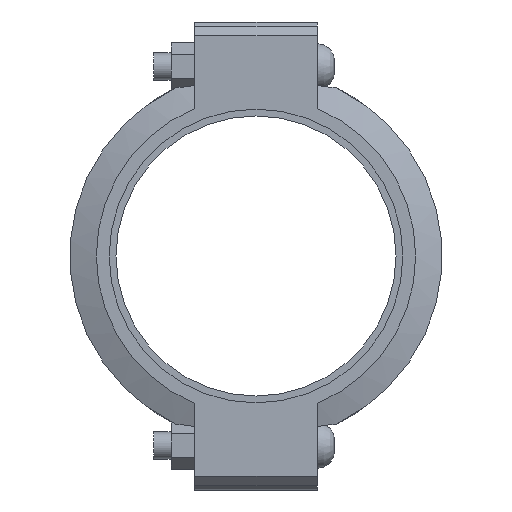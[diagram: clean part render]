
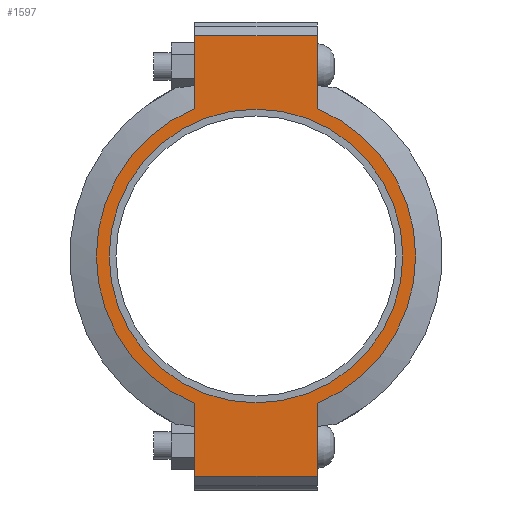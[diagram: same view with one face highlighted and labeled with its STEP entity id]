
A CAD part, left-side view. The second image highlights one B-rep face of the part: STEP entity #1597.
In plain terms, the highlighted planar face has unit normal (-1, 0, 0) as drawn and (0, 0, 1) by its records, which use the part's own axes.
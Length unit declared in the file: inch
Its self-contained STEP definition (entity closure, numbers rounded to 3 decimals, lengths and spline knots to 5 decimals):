
#168=LINE('',#2768,#257);
#179=LINE('',#2819,#268);
#185=LINE('',#2845,#274);
#187=LINE('',#2848,#276);
#188=LINE('',#2853,#277);
#189=LINE('',#2854,#278);
#257=VECTOR('',#2260,0.3937);
#268=VECTOR('',#2291,0.3937);
#274=VECTOR('',#2309,0.3937);
#276=VECTOR('',#2313,0.3937);
#277=VECTOR('',#2318,0.3937);
#278=VECTOR('',#2319,0.3937);
#340=FACE_BOUND('',#517,.T.);
#408=FACE_OUTER_BOUND('',#516,.T.);
#516=EDGE_LOOP('',(#1292,#1293,#1294,#1295,#1296,#1297,#1298,#1299));
#517=EDGE_LOOP('',(#1300));
#599=CIRCLE('',#1834,5.375);
#623=CIRCLE('',#1886,5.845);
#624=CIRCLE('',#1887,5.845);
#695=VERTEX_POINT('',#2594);
#736=VERTEX_POINT('',#2765);
#737=VERTEX_POINT('',#2767);
#754=VERTEX_POINT('',#2814);
#755=VERTEX_POINT('',#2818);
#762=VERTEX_POINT('',#2840);
#763=VERTEX_POINT('',#2844);
#764=VERTEX_POINT('',#2850);
#765=VERTEX_POINT('',#2852);
#859=EDGE_CURVE('',#695,#695,#599,.T.);
#916=EDGE_CURVE('',#737,#736,#168,.T.);
#937=EDGE_CURVE('',#755,#754,#179,.T.);
#948=EDGE_CURVE('',#763,#762,#185,.T.);
#950=EDGE_CURVE('',#763,#736,#187,.T.);
#951=EDGE_CURVE('',#762,#764,#623,.T.);
#952=EDGE_CURVE('',#764,#765,#188,.T.);
#953=EDGE_CURVE('',#755,#765,#189,.T.);
#954=EDGE_CURVE('',#754,#737,#624,.T.);
#1292=ORIENTED_EDGE('',*,*,#950,.F.);
#1293=ORIENTED_EDGE('',*,*,#948,.T.);
#1294=ORIENTED_EDGE('',*,*,#951,.T.);
#1295=ORIENTED_EDGE('',*,*,#952,.T.);
#1296=ORIENTED_EDGE('',*,*,#953,.F.);
#1297=ORIENTED_EDGE('',*,*,#937,.T.);
#1298=ORIENTED_EDGE('',*,*,#954,.T.);
#1299=ORIENTED_EDGE('',*,*,#916,.T.);
#1300=ORIENTED_EDGE('',*,*,#859,.T.);
#1437=PLANE('',#1885);
#1597=ADVANCED_FACE('',(#408,#340),#1437,.T.);
#1834=AXIS2_PLACEMENT_3D('',#2596,#2150,#2151);
#1885=AXIS2_PLACEMENT_3D('',#2849,#2314,#2315);
#1886=AXIS2_PLACEMENT_3D('',#2851,#2316,#2317);
#1887=AXIS2_PLACEMENT_3D('',#2855,#2320,#2321);
#2150=DIRECTION('center_axis',(0.,0.,-1.));
#2151=DIRECTION('ref_axis',(1.,0.,0.));
#2260=DIRECTION('',(1.,0.,0.));
#2291=DIRECTION('',(1.,0.,0.));
#2309=DIRECTION('',(-1.,0.,0.));
#2313=DIRECTION('',(0.,-1.,0.));
#2314=DIRECTION('center_axis',(0.,0.,1.));
#2315=DIRECTION('ref_axis',(-1.,0.,0.));
#2316=DIRECTION('center_axis',(0.,0.,1.));
#2317=DIRECTION('ref_axis',(1.,0.,0.));
#2318=DIRECTION('',(-1.,0.,0.));
#2319=DIRECTION('',(0.,1.,0.));
#2320=DIRECTION('center_axis',(0.,0.,1.));
#2321=DIRECTION('ref_axis',(1.,0.,0.));
#2594=CARTESIAN_POINT('',(-5.375,0.,1.315));
#2596=CARTESIAN_POINT('Origin',(0.,0.,1.315));
#2765=CARTESIAN_POINT('',(8.065,-2.25,1.315));
#2767=CARTESIAN_POINT('',(5.39458,-2.25,1.315));
#2768=CARTESIAN_POINT('',(-8.565,-2.25,1.315));
#2814=CARTESIAN_POINT('',(-5.39458,-2.25,1.315));
#2818=CARTESIAN_POINT('',(-8.065,-2.25,1.315));
#2819=CARTESIAN_POINT('',(-8.565,-2.25,1.315));
#2840=CARTESIAN_POINT('',(5.39458,2.25,1.315));
#2844=CARTESIAN_POINT('',(8.065,2.25,1.315));
#2845=CARTESIAN_POINT('',(8.565,2.25,1.315));
#2848=CARTESIAN_POINT('',(8.065,-1.125,1.315));
#2849=CARTESIAN_POINT('Origin',(0.,0.,
1.315));
#2850=CARTESIAN_POINT('',(-5.39458,2.25,1.315));
#2851=CARTESIAN_POINT('Origin',(0.,0.,1.315));
#2852=CARTESIAN_POINT('',(-8.065,2.25,1.315));
#2853=CARTESIAN_POINT('',(8.565,2.25,1.315));
#2854=CARTESIAN_POINT('',(-8.065,1.125,1.315));
#2855=CARTESIAN_POINT('Origin',(0.,0.,1.315));
